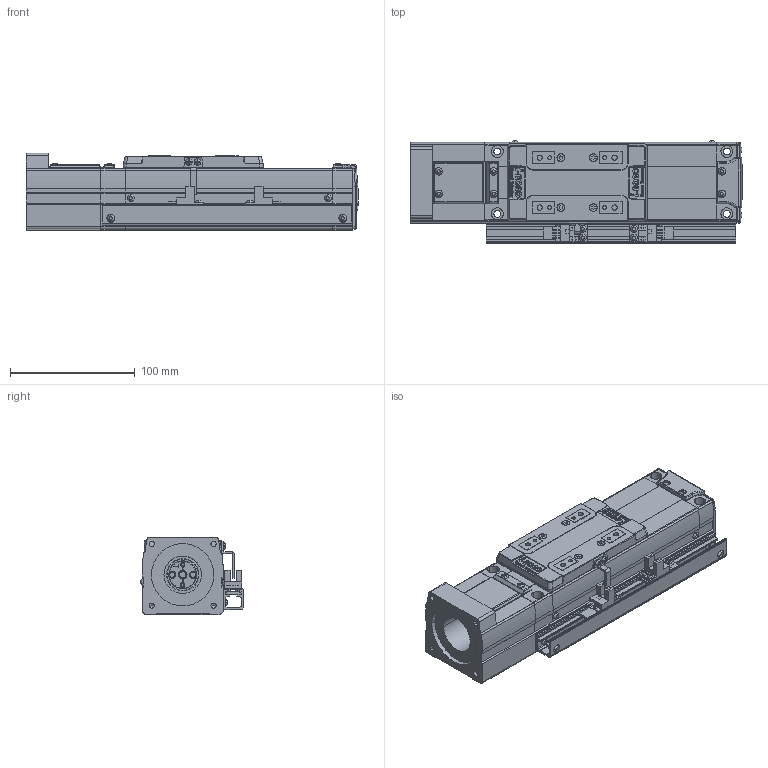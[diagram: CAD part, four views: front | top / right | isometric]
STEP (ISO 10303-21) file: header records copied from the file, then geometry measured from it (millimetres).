
FILE_DESCRIPTION(('STEP AP203'),'1');
FILE_NAME('Z:/Web/3D/SAN65/2012.ver/STP/50/SAN65ㅁㅁ-050S+2SR.stp','2014-06-13T05:26:45',(' '),(' '),'Spatial InterOp 3D',' ',' ');
FILE_SCHEMA(('CONFIG_CONTROL_DESIGN'));
Length unit declared in the file: millimetre
Products named in the file (70): 1; 2; 3; 4; 5; 6; 7; 8; 9; 10; 11; 12; 13; 14; 15; 16; 17; 18; 19; 20; 21; 22; 23; 24; 25; 26; 27; 28; 29; 30; 31; 32; 33; 34; 35; 36; 37; 38; 39; 40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
Bounding box: 266.15 x 82.06 x 62 mm (x, y, z)
Volume: 871805.6 mm3; surface area: 187045.4 mm2
Topology: 70 solids, 70 shells, 2640 faces, 6943 edges, 4522 vertices
Faces by surface type: plane 1348, cylinder 896, cone 290, sphere 52, bspline 28, torus 20, extrusion 6
Full cylindrical faces by diameter (mm): 2.132 x1, 3.5 x2, 6 x2
Entity records: 88535 total; most frequent: CARTESIAN_POINT 18175, DIRECTION 14564, ORIENTED_EDGE 13786, EDGE_CURVE 6893, AXIS2_PLACEMENT_3D 5231, VERTEX_POINT 4521, VECTOR 4102, LINE 4096
